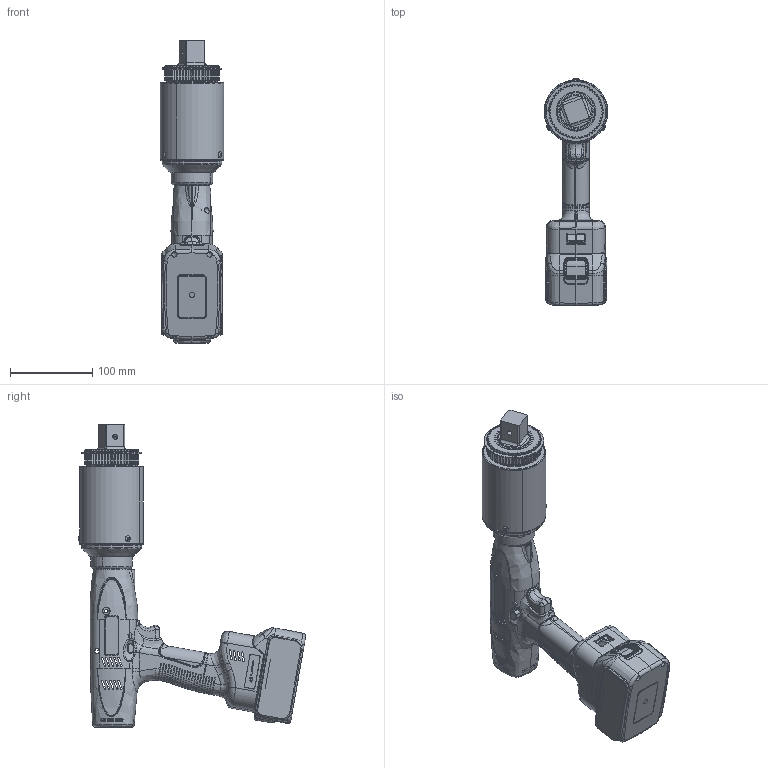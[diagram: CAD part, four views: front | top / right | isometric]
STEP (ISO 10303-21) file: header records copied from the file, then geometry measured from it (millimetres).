
FILE_DESCRIPTION (( 'STEP AP214' ), '1' );
FILE_NAME ('ABP-CTA1400W.STEP', '2022-08-19T16:33:48', ( '' ), ( '' ), 'SwSTEP 2.0', 'SolidWorks 2022', '' );
FILE_SCHEMA (( 'AUTOMOTIVE_DESIGN' ));
Length unit declared in the file: inch
Products named in the file (1): ABP-CTA1400W
Bounding box: 77.47 x 276.95 x 368.97 mm (x, y, z)
Surface area: 229374.2 mm2 (no closed solid volume)
Topology: 0 solids, 93 shells, 1655 faces, 7076 edges, 5280 vertices
Faces by surface type: bspline 597, cylinder 418, plane 371, cone 188, torus 79, sphere 2
Entity records: 203866 total; most frequent: CARTESIAN_POINT 134725, ORIENTED_EDGE 10379, EDGE_CURVE 7072, DIRECTION 6967, VERTEX_POINT 5280, B_SPLINE_CURVE_WITH_KNOTS 3321, AXIS2_PLACEMENT_3D 2386, VECTOR 2195
